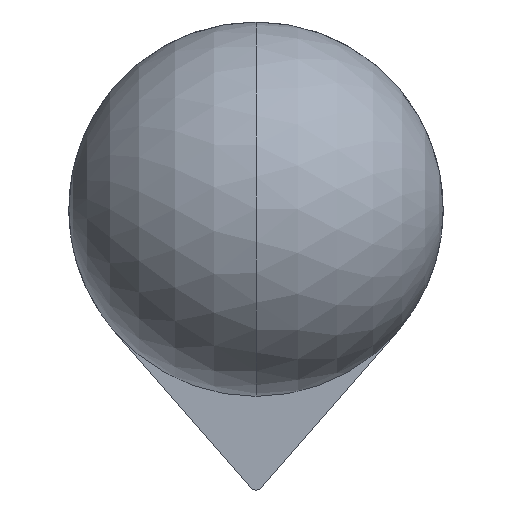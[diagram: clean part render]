
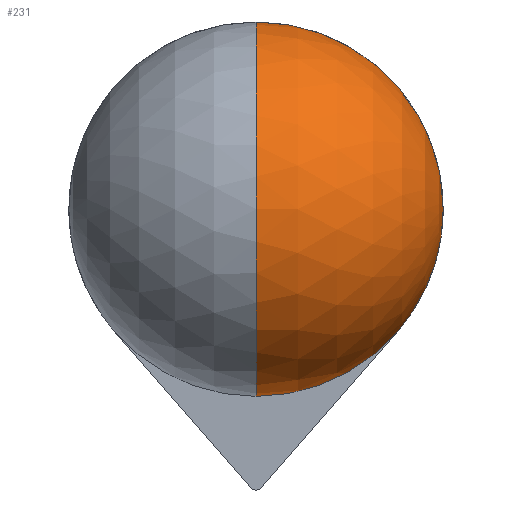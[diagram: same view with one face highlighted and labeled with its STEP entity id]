
A CAD part, front view. The second image highlights one B-rep face of the part: STEP entity #231.
In plain terms, the highlighted spherical face has radius 8 mm.
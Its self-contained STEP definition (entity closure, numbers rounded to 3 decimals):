
#2 = EDGE_CURVE ( 'NONE', #279, #413, #435, .T. ) ;
#42 = ORIENTED_EDGE ( 'NONE', *, *, #933, .F. ) ;
#47 = AXIS2_PLACEMENT_3D ( 'NONE', #92, #609, #799 ) ;
#92 = CARTESIAN_POINT ( 'NONE',  ( 0., 41., 0. ) ) ;
#127 = AXIS2_PLACEMENT_3D ( 'NONE', #563, #136, #838 ) ;
#136 = DIRECTION ( 'NONE',  ( 0., 1., 0. ) ) ;
#166 = AXIS2_PLACEMENT_3D ( 'NONE', #1048, #1152, #424 ) ;
#182 = SPHERICAL_SURFACE ( 'NONE', #47, 8. ) ;
#231 = ADVANCED_FACE ( 'NONE', ( #996 ), #182, .T. ) ;
#232 = VERTEX_POINT ( 'NONE', #1162 ) ;
#244 = DIRECTION ( 'NONE',  ( 0., 1., 0. ) ) ;
#279 = VERTEX_POINT ( 'NONE', #438 ) ;
#413 = VERTEX_POINT ( 'NONE', #725 ) ;
#424 = DIRECTION ( 'NONE',  ( 0., 0., 1. ) ) ;
#435 = CIRCLE ( 'NONE', #166, 8. ) ;
#438 = CARTESIAN_POINT ( 'NONE',  ( 0., 41., 8. ) ) ;
#445 = DIRECTION ( 'NONE',  ( 1., 0., 0. ) ) ;
#510 = DIRECTION ( 'NONE',  ( 0., 0., -1. ) ) ;
#533 = EDGE_CURVE ( 'NONE', #1045, #279, #1055, .T. ) ;
#539 = AXIS2_PLACEMENT_3D ( 'NONE', #976, #445, #510 ) ;
#563 = CARTESIAN_POINT ( 'NONE',  ( 0., 41., 0. ) ) ;
#591 = CARTESIAN_POINT ( 'NONE',  ( 0., 41., 0. ) ) ;
#600 = ORIENTED_EDGE ( 'NONE', *, *, #2, .T. ) ;
#609 = DIRECTION ( 'NONE',  ( -1., 0., 0. ) ) ;
#628 = CIRCLE ( 'NONE', #539, 8. ) ;
#641 = CARTESIAN_POINT ( 'NONE',  ( -6.023, 41., -5.265 ) ) ;
#725 = CARTESIAN_POINT ( 'NONE',  ( 0., 49., 0. ) ) ;
#768 = AXIS2_PLACEMENT_3D ( 'NONE', #591, #244, #1148 ) ;
#799 = DIRECTION ( 'NONE',  ( 0., 0., -1. ) ) ;
#838 = DIRECTION ( 'NONE',  ( 0., 0., 1. ) ) ;
#855 = ORIENTED_EDGE ( 'NONE', *, *, #886, .T. ) ;
#875 = CIRCLE ( 'NONE', #768, 8. ) ;
#886 = EDGE_CURVE ( 'NONE', #232, #1045, #875, .T. ) ;
#933 = EDGE_CURVE ( 'NONE', #232, #413, #628, .T. ) ;
#947 = EDGE_LOOP ( 'NONE', ( #1052, #600, #42, #855 ) ) ;
#976 = CARTESIAN_POINT ( 'NONE',  ( 0., 41., 0. ) ) ;
#996 = FACE_OUTER_BOUND ( 'NONE', #947, .T. ) ;
#1045 = VERTEX_POINT ( 'NONE', #641 ) ;
#1048 = CARTESIAN_POINT ( 'NONE',  ( 0., 41., 0. ) ) ;
#1052 = ORIENTED_EDGE ( 'NONE', *, *, #533, .T. ) ;
#1055 = CIRCLE ( 'NONE', #127, 8. ) ;
#1148 = DIRECTION ( 'NONE',  ( 0., 0., 1. ) ) ;
#1152 = DIRECTION ( 'NONE',  ( -1., 0., 0. ) ) ;
#1162 = CARTESIAN_POINT ( 'NONE',  ( 0., 41., -8. ) ) ;
